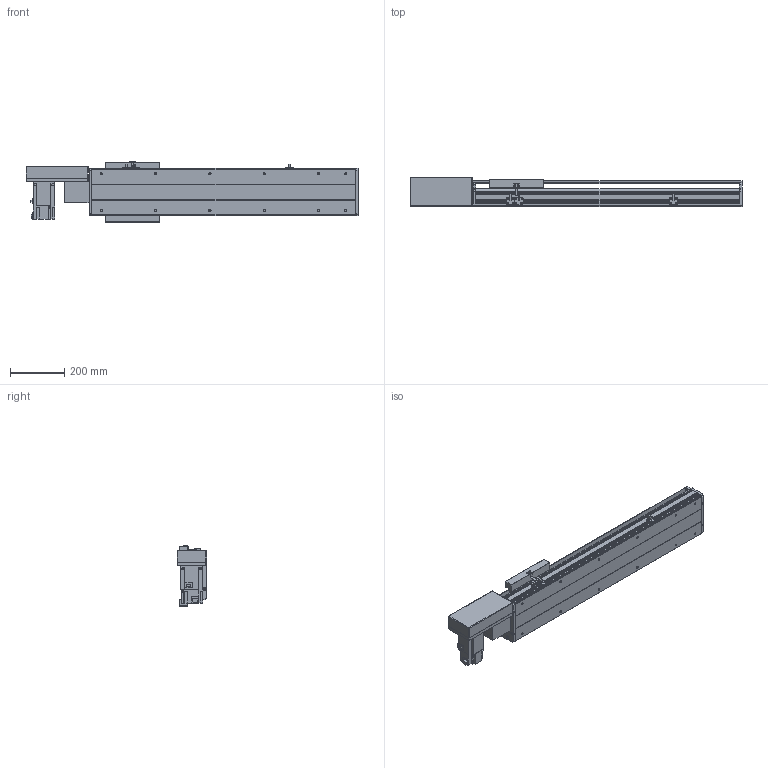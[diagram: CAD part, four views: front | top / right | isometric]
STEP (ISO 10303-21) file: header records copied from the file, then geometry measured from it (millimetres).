
FILE_DESCRIPTION(/* description */ ('STEP AP214'),/* implementation_level */ '2;1');
FILE_NAME(/* name */ 'PBS200-P40-S600-R-T75-C1-N(0)',/* time_stamp */ '2022-06-11T08:03:57+02:00',/* author */ ('License CC BY-ND 4.0'),/* organization */ ('CADENAS'),/* preprocessor_version */ 'ST-DEVELOPER v18.102',/* originating_system */ 'PARTsolutions',/* authorisation */ ' ');
FILE_SCHEMA (('AUTOMOTIVE_DESIGN {1 0 10303 214 3 1 1}'));
Length unit declared in the file: millimetre
Products named in the file (7): PBS200-P40-S600-R-T75-C1-N(0); PBS200_sensor; PBS200_plant; PBS200_sliser; T75-p1; PBS200T-R_motors; PBS200-S600()_body
Assembly tree (8 placements, depth 2):
  PBS200-P40-S600-R-T75-C1-N(0)
    PBS200_sensor  x3
    PBS200_plant
    PBS200_sliser
    T75-p1
    PBS200T-R_motors
    PBS200-S600()_body
Bounding box: 1222 x 109 x 221 mm (x, y, z)
Volume: 8739367.7 mm3; surface area: 1425821.2 mm2
Topology: 8 solids, 8 shells, 908 faces, 2354 edges, 1536 vertices
Faces by surface type: plane 570, cylinder 294, cone 44
Full cylindrical faces by diameter (mm): 2.459 x6, 3.242 x4, 4.5 x6, 4.917 x4, 5 x6, 6 x7, 6.6 x8, 6.647 x16, 8 x6, 10 x4, 12 x8, 38 x2, 40 x1, 70 x1
Entity records: 24341 total; most frequent: DIRECTION 4279, CARTESIAN_POINT 4156, ORIENTED_EDGE 3958, EDGE_CURVE 1979, AXIS2_PLACEMENT_3D 1483, VERTEX_POINT 1360, LINE 1313, VECTOR 1313
